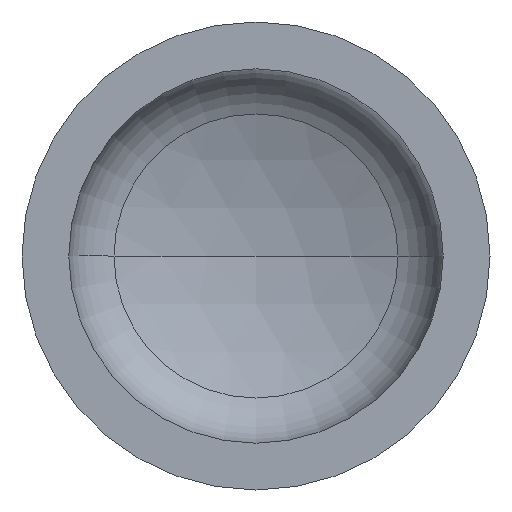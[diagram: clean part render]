
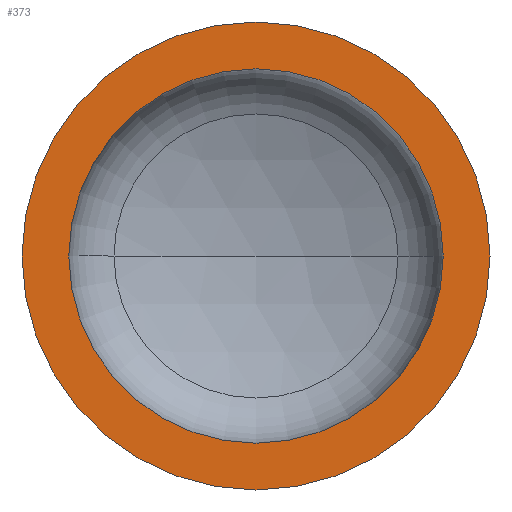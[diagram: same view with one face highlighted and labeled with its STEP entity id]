
A CAD part, front view. The second image highlights one B-rep face of the part: STEP entity #373.
In plain terms, the highlighted planar face has unit normal (0, -1, 0).
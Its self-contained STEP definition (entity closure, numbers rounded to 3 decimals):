
#19 = AXIS2_PLACEMENT_3D ( 'NONE', #146, #304, #128 ) ;
#23 = CARTESIAN_POINT ( 'NONE',  ( -450., 0., 0. ) ) ;
#39 = EDGE_LOOP ( 'NONE', ( #338, #280 ) ) ;
#45 = DIRECTION ( 'NONE',  ( 0., 1., 0. ) ) ;
#49 = VERTEX_POINT ( 'NONE', #214 ) ;
#50 = AXIS2_PLACEMENT_3D ( 'NONE', #137, #334, #328 ) ;
#51 = AXIS2_PLACEMENT_3D ( 'NONE', #305, #303, #153 ) ;
#52 = AXIS2_PLACEMENT_3D ( 'NONE', #95, #297, #122 ) ;
#63 = EDGE_CURVE ( 'NONE', #285, #197, #67, .T. ) ;
#64 = EDGE_CURVE ( 'NONE', #49, #408, #160, .T. ) ;
#67 = CIRCLE ( 'NONE', #51, 450. ) ;
#95 = CARTESIAN_POINT ( 'NONE',  ( 0., 0., 0. ) ) ;
#97 = CIRCLE ( 'NONE', #19, 360. ) ;
#122 = DIRECTION ( 'NONE',  ( 1., 0., 0. ) ) ;
#128 = DIRECTION ( 'NONE',  ( 1., 0., 0. ) ) ;
#137 = CARTESIAN_POINT ( 'NONE',  ( 0., 0., 0. ) ) ;
#144 = AXIS2_PLACEMENT_3D ( 'NONE', #327, #45, #270 ) ;
#146 = CARTESIAN_POINT ( 'NONE',  ( 0., 0., 0. ) ) ;
#153 = DIRECTION ( 'NONE',  ( 1., 0., 0. ) ) ;
#154 = PLANE ( 'NONE',  #144 ) ;
#156 = CIRCLE ( 'NONE', #52, 450. ) ;
#157 = ORIENTED_EDGE ( 'NONE', *, *, #354, .T. ) ;
#160 = CIRCLE ( 'NONE', #50, 360. ) ;
#197 = VERTEX_POINT ( 'NONE', #252 ) ;
#213 = CARTESIAN_POINT ( 'NONE',  ( -360., 0., 0. ) ) ;
#214 = CARTESIAN_POINT ( 'NONE',  ( 360., 0., 0. ) ) ;
#222 = ORIENTED_EDGE ( 'NONE', *, *, #63, .T. ) ;
#235 = FACE_OUTER_BOUND ( 'NONE', #399, .T. ) ;
#252 = CARTESIAN_POINT ( 'NONE',  ( 450., 0., 0. ) ) ;
#270 = DIRECTION ( 'NONE',  ( -1., 0., 0. ) ) ;
#280 = ORIENTED_EDGE ( 'NONE', *, *, #333, .F. ) ;
#285 = VERTEX_POINT ( 'NONE', #23 ) ;
#297 = DIRECTION ( 'NONE',  ( 0., -1., 0. ) ) ;
#303 = DIRECTION ( 'NONE',  ( 0., -1., 0. ) ) ;
#304 = DIRECTION ( 'NONE',  ( 0., -1., 0. ) ) ;
#305 = CARTESIAN_POINT ( 'NONE',  ( 0., 0., 0. ) ) ;
#307 = FACE_BOUND ( 'NONE', #39, .T. ) ;
#327 = CARTESIAN_POINT ( 'NONE',  ( -450., 0., 0. ) ) ;
#328 = DIRECTION ( 'NONE',  ( 1., 0., 0. ) ) ;
#333 = EDGE_CURVE ( 'NONE', #408, #49, #97, .T. ) ;
#334 = DIRECTION ( 'NONE',  ( 0., -1., 0. ) ) ;
#338 = ORIENTED_EDGE ( 'NONE', *, *, #64, .F. ) ;
#354 = EDGE_CURVE ( 'NONE', #197, #285, #156, .T. ) ;
#373 = ADVANCED_FACE ( 'NONE', ( #307, #235 ), #154, .F. ) ;
#399 = EDGE_LOOP ( 'NONE', ( #157, #222 ) ) ;
#408 = VERTEX_POINT ( 'NONE', #213 ) ;
